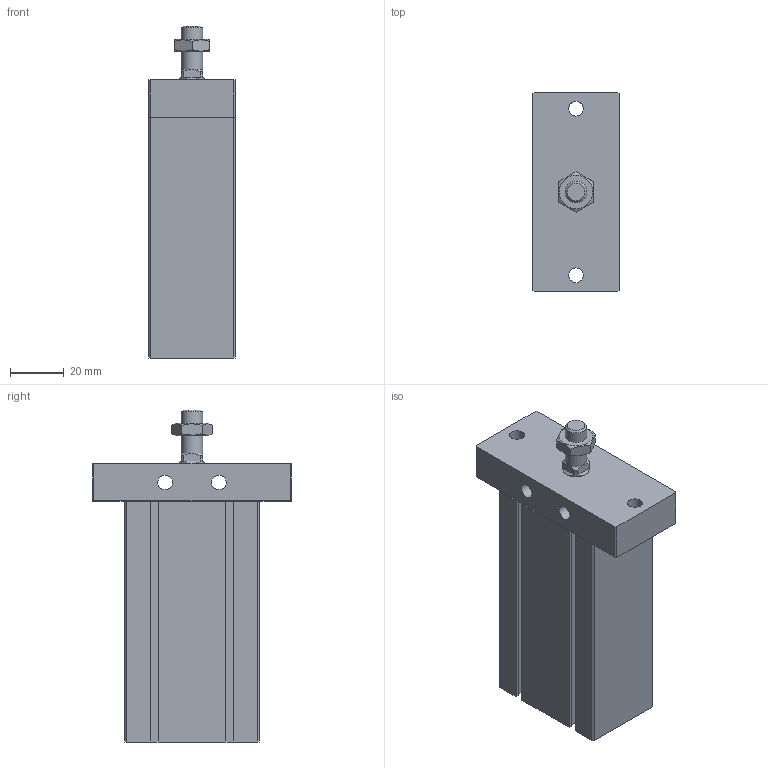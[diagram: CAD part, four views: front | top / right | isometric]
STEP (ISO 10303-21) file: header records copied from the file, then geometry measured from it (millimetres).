
FILE_DESCRIPTION((''),'2;1');
FILE_NAME('J:\3D電子目錄\氣缸\ND\ND\ND25-FB\ND25x60-FB.stp','2008-03-12T17:33:14',('66-2f-008'),(''),'Autodesk Inventor 11','Autodesk Inventor 11','');
FILE_SCHEMA(('AUTOMOTIVE_DESIGN { 1 0 10303 214 1 1 1 1 }'));
Length unit declared in the file: millimetre
Products named in the file (1): ND25-FB
Bounding box: 32 x 74 x 123.5 mm (x, y, z)
Volume: 164642.5 mm3; surface area: 30738.6 mm2
Topology: 2 solids, 2 shells, 129 faces, 311 edges, 197 vertices
Faces by surface type: plane 87, cone 14, bspline 14, cylinder 13, torus 1
Full cylindrical faces by diameter (mm): 1.5 x2, 5.5 x2, 8 x2, 17 x1, 28 x1, 29.4 x1
Entity records: 3654 total; most frequent: CARTESIAN_POINT 820, DIRECTION 552, ORIENTED_EDGE 552, EDGE_CURVE 276, VERTEX_POINT 192, VECTOR 192, LINE 192, AXIS2_PLACEMENT_3D 180
